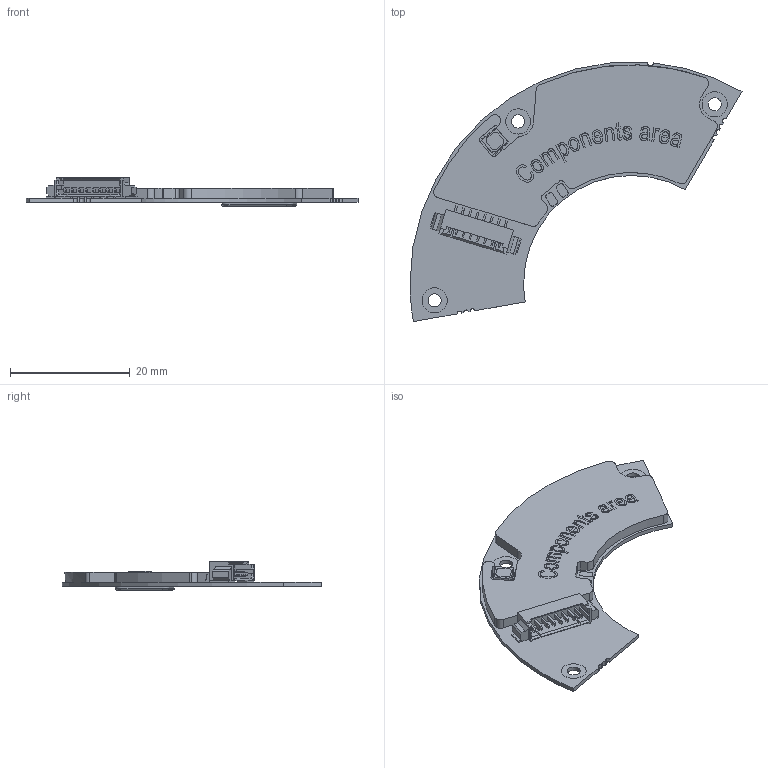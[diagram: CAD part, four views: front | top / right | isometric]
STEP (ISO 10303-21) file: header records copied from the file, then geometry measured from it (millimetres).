
FILE_DESCRIPTION (( 'STEP AP214' ), '1' );
FILE_NAME ('MB053xxxxxxENx00.STEP', '2024-04-18T09:33:48', ( '' ), ( '' ), 'SwSTEP 2.0', 'SolidWorks 2022', '' );
FILE_SCHEMA (( 'AUTOMOTIVE_DESIGN' ));
Length unit declared in the file: millimetre
Products named in the file (1): MB053xxxxxxENx00
Bounding box: 55.5 x 43.32 x 4.77 mm (x, y, z)
Volume: 2187.7 mm3; surface area: 3406.1 mm2
Topology: 4 solids, 4 shells, 714 faces, 1991 edges, 1308 vertices
Faces by surface type: plane 465, bspline 139, cylinder 110
Entity records: 36927 total; most frequent: CARTESIAN_POINT 11491, ORIENTED_EDGE 3982, DIRECTION 3087, EDGE_CURVE 1991, VECTOR 1491, LINE 1491, VERTEX_POINT 1308, AXIS2_PLACEMENT_3D 798
